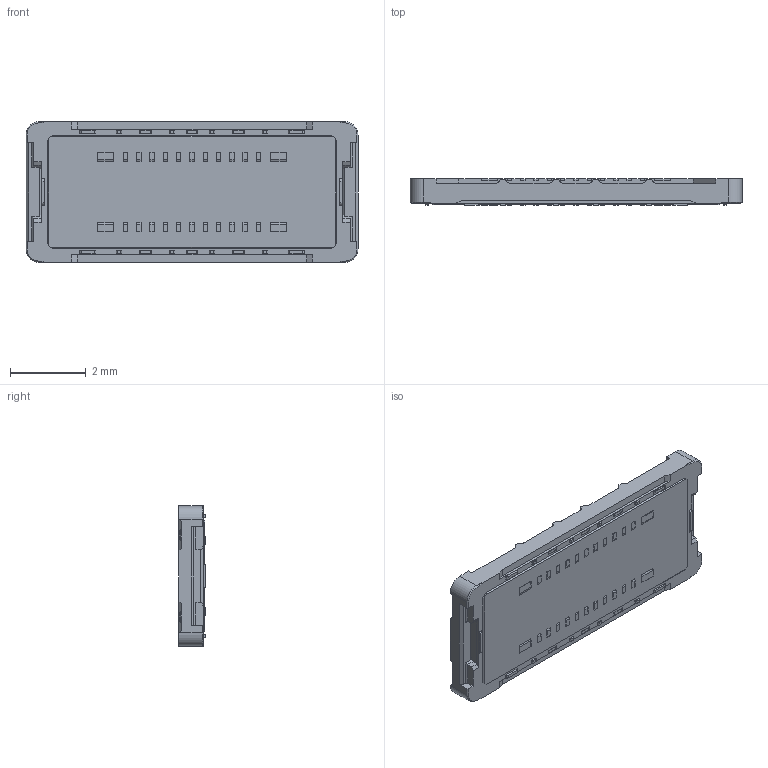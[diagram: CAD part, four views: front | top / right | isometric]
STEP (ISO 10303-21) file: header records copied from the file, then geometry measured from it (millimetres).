
FILE_DESCRIPTION (( 'STEP AP203' ), '1' );
FILE_NAME ('20697-022E-01+20698-022E-01C NOVASTACK 35-HDP MATING STEP R1R2 ALL.STEP', '2026-09-08T08:10:14', ( '' ), ( '' ), 'SwSTEP 2.0', 'SolidWorks 2025', '' );
FILE_SCHEMA (( 'CONFIG_CONTROL_DESIGN' ));
Length unit declared in the file: millimetre
Products named in the file (1): 20697-022E-01+20698-022E-01C NOVASTACK 35-HDP MATING STEP R1R2 ALL
Bounding box: 8.74 x 0.7 x 3.7 mm (x, y, z)
Volume: 18.7 mm3; surface area: 91.9 mm2
Topology: 1 solids, 1 shells, 691 faces, 1882 edges, 1244 vertices
Faces by surface type: plane 527, cylinder 156, cone 8
Entity records: 21691 total; most frequent: CARTESIAN_POINT 3866, ORIENTED_EDGE 3764, DIRECTION 3564, EDGE_CURVE 1882, VECTOR 1552, LINE 1552, VERTEX_POINT 1244, AXIS2_PLACEMENT_3D 1006
